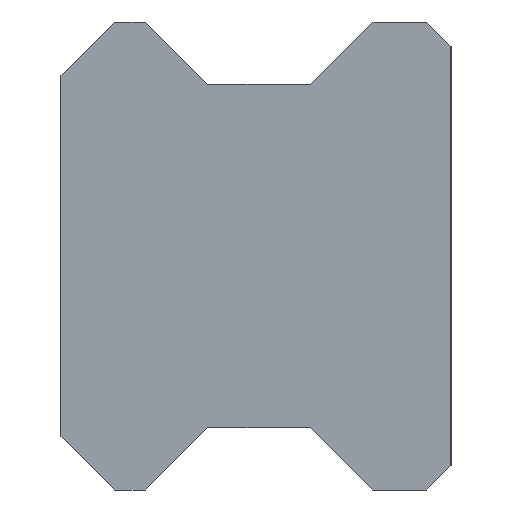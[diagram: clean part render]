
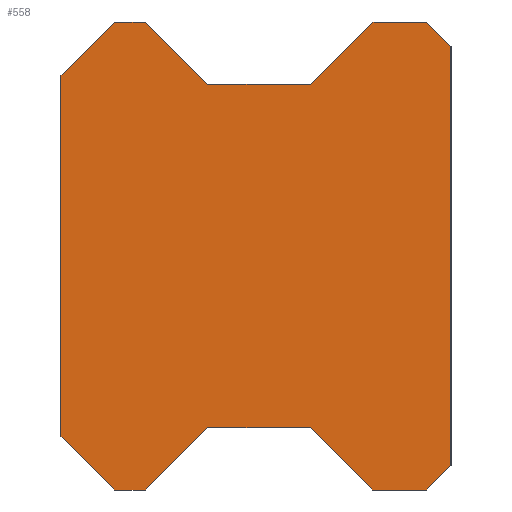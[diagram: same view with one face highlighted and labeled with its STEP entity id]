
A CAD part, left-side view. The second image highlights one B-rep face of the part: STEP entity #558.
In plain terms, the highlighted planar face has unit normal (-1, 0, 0).
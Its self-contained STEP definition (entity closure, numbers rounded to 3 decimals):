
#140=ORIENTED_EDGE('',*,*,#186,.F.);
#141=ORIENTED_EDGE('',*,*,#242,.F.);
#142=ORIENTED_EDGE('',*,*,#239,.F.);
#143=ORIENTED_EDGE('',*,*,#231,.F.);
#144=ORIENTED_EDGE('',*,*,#228,.F.);
#145=ORIENTED_EDGE('',*,*,#225,.F.);
#146=ORIENTED_EDGE('',*,*,#222,.F.);
#147=ORIENTED_EDGE('',*,*,#219,.F.);
#148=ORIENTED_EDGE('',*,*,#216,.F.);
#149=ORIENTED_EDGE('',*,*,#213,.F.);
#150=ORIENTED_EDGE('',*,*,#210,.F.);
#151=ORIENTED_EDGE('',*,*,#202,.F.);
#152=ORIENTED_EDGE('',*,*,#199,.F.);
#153=ORIENTED_EDGE('',*,*,#196,.F.);
#154=ORIENTED_EDGE('',*,*,#193,.F.);
#155=ORIENTED_EDGE('',*,*,#190,.F.);
#186=EDGE_CURVE('',#254,#255,#306,.T.);
#190=EDGE_CURVE('',#255,#258,#310,.T.);
#193=EDGE_CURVE('',#258,#260,#313,.T.);
#196=EDGE_CURVE('',#260,#262,#316,.T.);
#199=EDGE_CURVE('',#262,#264,#319,.T.);
#202=EDGE_CURVE('',#264,#266,#322,.T.);
#210=EDGE_CURVE('',#266,#273,#325,.T.);
#213=EDGE_CURVE('',#273,#275,#328,.T.);
#216=EDGE_CURVE('',#275,#277,#331,.T.);
#219=EDGE_CURVE('',#277,#279,#334,.T.);
#222=EDGE_CURVE('',#279,#281,#337,.T.);
#225=EDGE_CURVE('',#281,#283,#340,.T.);
#228=EDGE_CURVE('',#283,#285,#343,.T.);
#231=EDGE_CURVE('',#285,#287,#346,.T.);
#239=EDGE_CURVE('',#287,#294,#349,.T.);
#242=EDGE_CURVE('',#294,#254,#352,.T.);
#254=VERTEX_POINT('',#799);
#255=VERTEX_POINT('',#800);
#258=VERTEX_POINT('',#808);
#260=VERTEX_POINT('',#814);
#262=VERTEX_POINT('',#820);
#264=VERTEX_POINT('',#826);
#266=VERTEX_POINT('',#832);
#273=VERTEX_POINT('',#848);
#275=VERTEX_POINT('',#854);
#277=VERTEX_POINT('',#860);
#279=VERTEX_POINT('',#866);
#281=VERTEX_POINT('',#872);
#283=VERTEX_POINT('',#878);
#285=VERTEX_POINT('',#884);
#287=VERTEX_POINT('',#890);
#294=VERTEX_POINT('',#906);
#306=LINE('',#798,#354);
#310=LINE('',#807,#358);
#313=LINE('',#813,#361);
#316=LINE('',#819,#364);
#319=LINE('',#825,#367);
#322=LINE('',#831,#370);
#325=LINE('',#847,#373);
#328=LINE('',#853,#376);
#331=LINE('',#859,#379);
#334=LINE('',#865,#382);
#337=LINE('',#871,#385);
#340=LINE('',#877,#388);
#343=LINE('',#883,#391);
#346=LINE('',#889,#394);
#349=LINE('',#905,#397);
#352=LINE('',#911,#400);
#354=VECTOR('',#644,1000.);
#358=VECTOR('',#650,1000.);
#361=VECTOR('',#655,1000.);
#364=VECTOR('',#660,1000.);
#367=VECTOR('',#665,1000.);
#370=VECTOR('',#670,1000.);
#373=VECTOR('',#685,1000.);
#376=VECTOR('',#690,1000.);
#379=VECTOR('',#695,1000.);
#382=VECTOR('',#700,1000.);
#385=VECTOR('',#705,1000.);
#388=VECTOR('',#710,1000.);
#391=VECTOR('',#715,1000.);
#394=VECTOR('',#720,1000.);
#397=VECTOR('',#735,1000.);
#400=VECTOR('',#740,1000.);
#429=EDGE_LOOP('',(#140,#141,#142,#143,#144,#145,#146,#147,#148,#149,#150,
#151,#152,#153,#154,#155));
#487=FACE_BOUND('',#429,.T.);
#535=PLANE('',#614);
#558=ADVANCED_FACE('',(#487),#535,.F.);
#614=AXIS2_PLACEMENT_3D('',#914,#744,#745);
#644=DIRECTION('',(0.,-1.,0.));
#650=DIRECTION('',(0.,-0.707,-0.707));
#655=DIRECTION('',(0.,-1.,0.));
#660=DIRECTION('',(0.,-0.707,0.707));
#665=DIRECTION('',(0.,-1.,0.));
#670=DIRECTION('',(0.,-0.707,-0.707));
#685=DIRECTION('',(0.,0.,-1.));
#690=DIRECTION('',(0.,0.707,-0.707));
#695=DIRECTION('',(0.,1.,0.));
#700=DIRECTION('',(0.,0.707,0.707));
#705=DIRECTION('',(0.,1.,0.));
#710=DIRECTION('',(0.,0.707,-0.707));
#715=DIRECTION('',(0.,1.,0.));
#720=DIRECTION('',(0.,0.711,0.703));
#735=DIRECTION('',(0.,0.,1.));
#740=DIRECTION('',(0.,-0.711,0.703));
#744=DIRECTION('',(1.,0.,0.));
#745=DIRECTION('',(0.,0.,-1.));
#798=CARTESIAN_POINT('',(0.,10.78,7.5));
#799=CARTESIAN_POINT('',(0.,10.78,7.5));
#800=CARTESIAN_POINT('',(0.,9.8,7.5));
#807=CARTESIAN_POINT('',(0.,9.8,7.5));
#808=CARTESIAN_POINT('',(0.,7.8,5.5));
#813=CARTESIAN_POINT('',(0.,7.8,5.5));
#814=CARTESIAN_POINT('',(0.,4.5,5.5));
#819=CARTESIAN_POINT('',(0.,4.5,5.5));
#820=CARTESIAN_POINT('',(0.,2.5,7.5));
#825=CARTESIAN_POINT('',(0.,2.5,7.5));
#826=CARTESIAN_POINT('',(0.,0.8,7.5));
#831=CARTESIAN_POINT('',(0.,0.8,7.5));
#832=CARTESIAN_POINT('',(0.,0.,6.7));
#847=CARTESIAN_POINT('',(0.,0.,6.7));
#848=CARTESIAN_POINT('',(0.,0.,-6.7));
#853=CARTESIAN_POINT('',(0.,0.,-6.7));
#854=CARTESIAN_POINT('',(0.,0.8,-7.5));
#859=CARTESIAN_POINT('',(0.,0.8,-7.5));
#860=CARTESIAN_POINT('',(0.,2.5,-7.5));
#865=CARTESIAN_POINT('',(0.,2.5,-7.5));
#866=CARTESIAN_POINT('',(0.,4.5,-5.5));
#871=CARTESIAN_POINT('',(0.,4.5,-5.5));
#872=CARTESIAN_POINT('',(0.,7.8,-5.5));
#877=CARTESIAN_POINT('',(0.,7.8,-5.5));
#878=CARTESIAN_POINT('',(0.,9.8,-7.5));
#883=CARTESIAN_POINT('',(0.,9.8,-7.5));
#884=CARTESIAN_POINT('',(0.,10.78,-7.5));
#889=CARTESIAN_POINT('',(0.,10.78,-7.5));
#890=CARTESIAN_POINT('',(0.,12.5,-5.8));
#905=CARTESIAN_POINT('',(0.,12.5,-5.8));
#906=CARTESIAN_POINT('',(0.,12.5,5.8));
#911=CARTESIAN_POINT('',(0.,12.5,5.8));
#914=CARTESIAN_POINT('',(0.,0.,0.));
